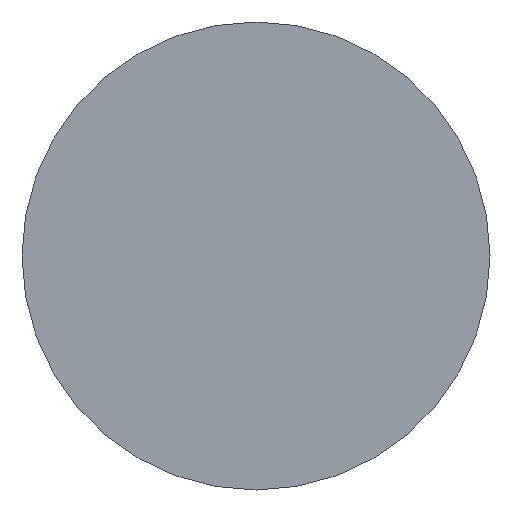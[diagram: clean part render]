
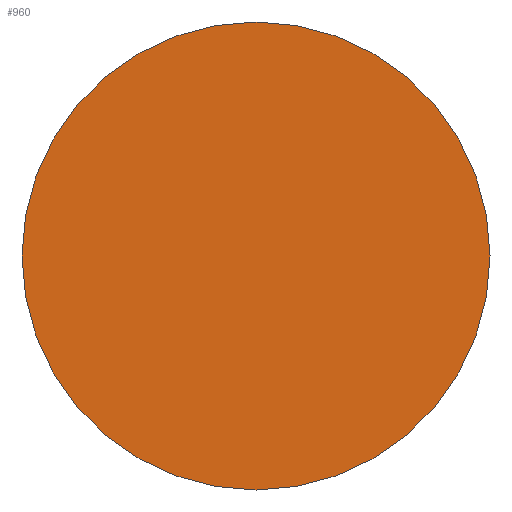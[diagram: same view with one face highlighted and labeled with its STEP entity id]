
A CAD part, front view. The second image highlights one B-rep face of the part: STEP entity #960.
In plain terms, the highlighted planar face has unit normal (0, -1, 0).
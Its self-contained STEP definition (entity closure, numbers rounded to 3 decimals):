
#306 = DIRECTION ( 'NONE',  ( -1., 0., 0. ) ) ;
#313 = VERTEX_POINT ( 'NONE', #2488 ) ;
#317 = EDGE_CURVE ( 'NONE', #313, #8661, #6966, .T. ) ;
#897 = AXIS2_PLACEMENT_3D ( 'NONE', #2355, #8649, #7559 ) ;
#960 = ADVANCED_FACE ( 'NONE', ( #7135 ), #4147, .F. ) ;
#1403 = DIRECTION ( 'NONE',  ( 0., 1., 0. ) ) ;
#1424 = AXIS2_PLACEMENT_3D ( 'NONE', #10416, #9327, #8242 ) ;
#2355 = CARTESIAN_POINT ( 'NONE',  ( 0., 0., 0. ) ) ;
#2488 = CARTESIAN_POINT ( 'NONE',  ( 40., 0., 0. ) ) ;
#3579 = CARTESIAN_POINT ( 'NONE',  ( 0., 0., 0. ) ) ;
#3784 = ORIENTED_EDGE ( 'NONE', *, *, #4483, .F. ) ;
#4147 = PLANE ( 'NONE',  #1424 ) ;
#4483 = EDGE_CURVE ( 'NONE', #8661, #313, #5001, .T. ) ;
#5001 = CIRCLE ( 'NONE', #897, 40. ) ;
#6536 = CARTESIAN_POINT ( 'NONE',  ( -40., 0., 0. ) ) ;
#6705 = EDGE_LOOP ( 'NONE', ( #3784, #6936 ) ) ;
#6936 = ORIENTED_EDGE ( 'NONE', *, *, #317, .F. ) ;
#6966 = CIRCLE ( 'NONE', #7669, 40. ) ;
#7135 = FACE_OUTER_BOUND ( 'NONE', #6705, .T. ) ;
#7559 = DIRECTION ( 'NONE',  ( -1., 0., 0. ) ) ;
#7669 = AXIS2_PLACEMENT_3D ( 'NONE', #3579, #1403, #306 ) ;
#8242 = DIRECTION ( 'NONE',  ( -1., 0., 0. ) ) ;
#8649 = DIRECTION ( 'NONE',  ( 0., 1., 0. ) ) ;
#8661 = VERTEX_POINT ( 'NONE', #6536 ) ;
#9327 = DIRECTION ( 'NONE',  ( 0., 1., 0. ) ) ;
#10416 = CARTESIAN_POINT ( 'NONE',  ( 0., 0., 0. ) ) ;
